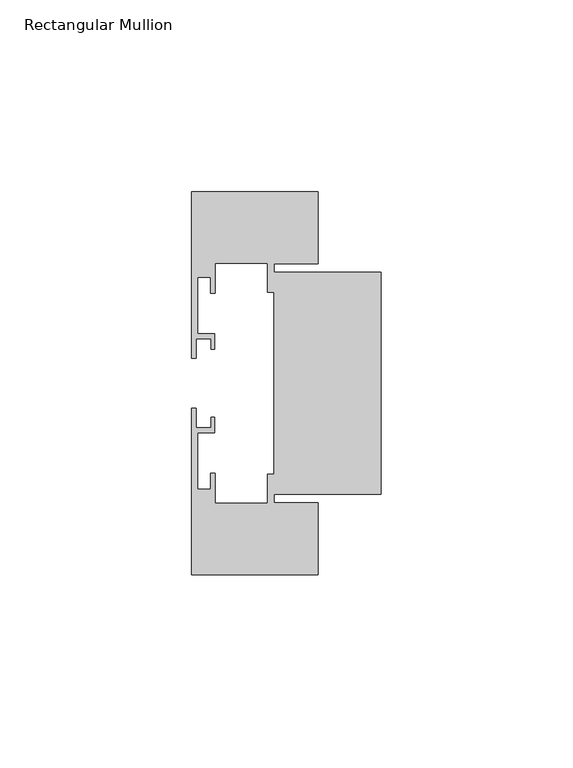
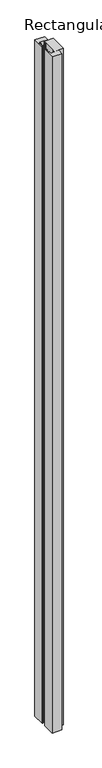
"""IFC4 building model written with IfcOpenShell, lengths in millimetres: member geometry, Rectangular Mullion : Frame-Teknion-OptosLP-Vertical_Trim_Border_1."""

from ifc_helpers import new_model, si_unit, frame, origin, place, context, project, spatial, polyline, outline, extrude, source, transform, mapped, element, save


def rectangular_mullion_9636eab6(model_context):
    return source(origin(), model_context, "Body", "SweptSolid", [
        extrude(outline(polyline([(-16.5391931, 50.0127381), (-16.5391931, 31.2040403), (-27.969193, 31.2040403), (-27.969193, 28.9941402), (0.0, 28.9941402), (0.0, -28.9941402), (-27.969193, -28.9941402), (-27.969193, -31.2040403), (-16.5391931, -31.2040403), (-16.5391931, -50.0127381), (-49.559194, -50.0127381), (-49.559194, -6.5660402), (-48.2891941, -6.5660402), (-48.2891941, -11.64604), (-44.4791925, -11.64604), (-44.4791925, -8.8520406), (-43.4631922, -8.8520406), (-43.4631922, -12.9160398), (-47.9081937, -12.9160398), (-47.9081937, -27.6734393), (-44.6061933, -27.6734393), (-44.6061933, -23.5008848), (-43.3361934, -23.5008848), (-43.3361934, -31.356442), (-29.6201932, -31.356442), (-29.6201932, -23.7364407), (-27.969193, -23.7364407), (-27.969193, 23.7364407), (-29.6201932, 23.7364407), (-29.6201932, 31.356442), (-43.3361934, 31.356442), (-43.3361934, 23.5008848), (-44.6061933, 23.5008848), (-44.6061933, 27.6734393), (-47.9081937, 27.6734393), (-47.9081937, 12.9160398), (-43.4631922, 12.9160398), (-43.4631922, 8.8520406), (-44.4791925, 8.8520406), (-44.4791925, 11.64604), (-48.2891941, 11.64604), (-48.2891941, 6.5660402), (-49.559194, 6.5660402), (-49.559194, 50.0127381), (-16.5391931, 50.0127381)])), frame((0.0, 0.0, -2411.187364), z_axis=(0.0, 0.0, 1.0), x_axis=(1.0, 0.0, 0.0)), (0.0, 0.0, 1.0), 2411.187364),
    ])


if __name__ == "__main__":
    model = new_model("IFC4")
    model_context = context("Model", 3, world=origin())
    ifc_project = project(units=[si_unit("LENGTHUNIT", "METRE", prefix="MILLI")], contexts=[model_context])
    site = spatial("IfcSite", under=ifc_project)
    building = spatial("IfcBuilding", under=site)
    placement = place(None, origin())
    rectangular_mullion_shape = rectangular_mullion_9636eab6(model_context)
    element("IfcMember", 1, ObjectType="Rectangular Mullion : Frame-Teknion-OptosLP-Vertical_Trim_Border_1", at=placement, inside=building, context=model_context, shape_type="MappedRepresentation", body=[
        mapped(rectangular_mullion_shape, transform((0.0, 0.0, 0.0), x_axis=(1.0, 0.0, 0.0), y_axis=(0.0, 1.0, 0.0), z_axis=(0.0, 0.0, 1.0))),
    ])
    save(model, "model.ifc")
